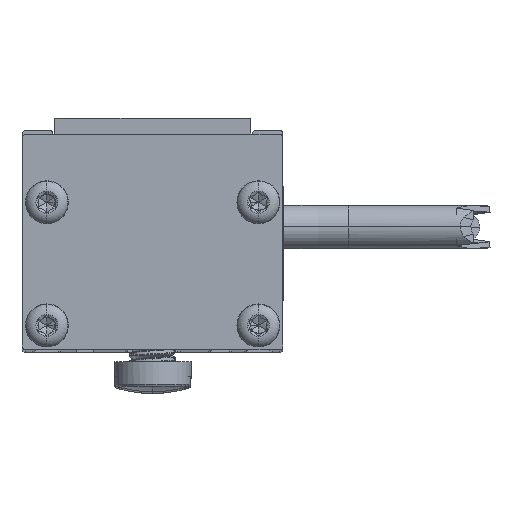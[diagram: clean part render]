
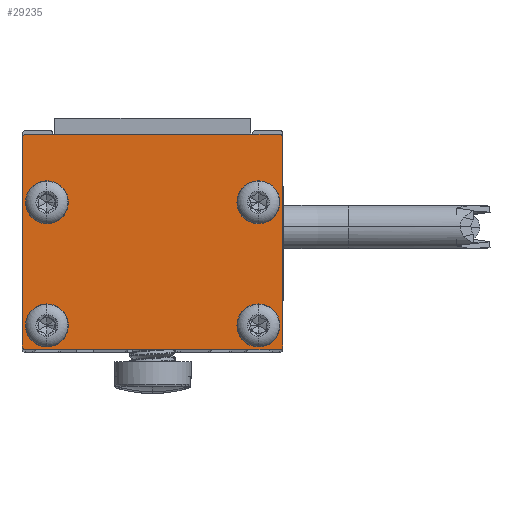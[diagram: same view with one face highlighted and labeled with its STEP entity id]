
A CAD part, top view. The second image highlights one B-rep face of the part: STEP entity #29235.
In plain terms, the highlighted planar face has unit normal (0, 0, 1).
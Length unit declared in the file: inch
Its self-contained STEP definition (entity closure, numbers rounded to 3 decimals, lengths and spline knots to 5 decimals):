
#76 = CARTESIAN_POINT ( 'NONE',  ( -0.65, 0.55, 0.03 ) ) ;
#164 = CARTESIAN_POINT ( 'NONE',  ( -0.5405, -0.425, 0.03 ) ) ;
#883 = AXIS2_PLACEMENT_3D ( 'NONE', #32474, #8230, #11011 ) ;
#925 = CIRCLE ( 'NONE', #10671, 0.0705 ) ;
#1052 = DIRECTION ( 'NONE',  ( 0., 0., 1. ) ) ;
#1828 = CARTESIAN_POINT ( 'NONE',  ( 0.65, 0.535, 0.03 ) ) ;
#1843 = AXIS2_PLACEMENT_3D ( 'NONE', #34342, #18425, #29399 ) ;
#1904 = CARTESIAN_POINT ( 'NONE',  ( 0.5405, 0.204, 0.03 ) ) ;
#1942 = CARTESIAN_POINT ( 'NONE',  ( -0.65, 0.535, 0.03 ) ) ;
#2107 = ORIENTED_EDGE ( 'NONE', *, *, #6835, .F. ) ;
#2115 = EDGE_CURVE ( 'NONE', #33021, #22830, #3619, .T. ) ;
#2238 = CIRCLE ( 'NONE', #17000, 0.015 ) ;
#2593 = DIRECTION ( 'NONE',  ( 1., 0., 0. ) ) ;
#2758 = CARTESIAN_POINT ( 'NONE',  ( -0.47, 0.204, 0.03 ) ) ;
#3425 = FACE_BOUND ( 'NONE', #18675, .T. ) ;
#3464 = CARTESIAN_POINT ( 'NONE',  ( 0.65, -0.55, 0.03 ) ) ;
#3619 = LINE ( 'NONE', #34153, #27867 ) ;
#3894 = CIRCLE ( 'NONE', #883, 0.0705 ) ;
#4306 = EDGE_CURVE ( 'NONE', #20735, #5049, #9852, .T. ) ;
#4527 = DIRECTION ( 'NONE',  ( 1., 0., 0. ) ) ;
#4608 = CARTESIAN_POINT ( 'NONE',  ( 0.665, 0.535, 0.03 ) ) ;
#4693 = ORIENTED_EDGE ( 'NONE', *, *, #12340, .F. ) ;
#4827 = DIRECTION ( 'NONE',  ( 0., 0., 1. ) ) ;
#4854 = AXIS2_PLACEMENT_3D ( 'NONE', #8296, #29655, #26654 ) ;
#5049 = VERTEX_POINT ( 'NONE', #33932 ) ;
#5125 = FACE_BOUND ( 'NONE', #22316, .T. ) ;
#5287 = DIRECTION ( 'NONE',  ( 1., 0., 0. ) ) ;
#5825 = LINE ( 'NONE', #18314, #9574 ) ;
#6415 = EDGE_CURVE ( 'NONE', #9506, #23801, #32909, .T. ) ;
#6622 = CARTESIAN_POINT ( 'NONE',  ( -0.611, 0.204, 0.03 ) ) ;
#6673 = EDGE_CURVE ( 'NONE', #20764, #22511, #30420, .T. ) ;
#6835 = EDGE_CURVE ( 'NONE', #22511, #20764, #18739, .T. ) ;
#6910 = EDGE_LOOP ( 'NONE', ( #12353, #31422, #24636, #32815, #18856, #23184, #32817, #19244 ) ) ;
#6936 = EDGE_CURVE ( 'NONE', #10852, #29149, #7017, .T. ) ;
#7017 = CIRCLE ( 'NONE', #17351, 0.0705 ) ;
#7324 = DIRECTION ( 'NONE',  ( 0., 0., 1. ) ) ;
#7361 = CARTESIAN_POINT ( 'NONE',  ( 0.665, -0.535, 0.03 ) ) ;
#7384 = CARTESIAN_POINT ( 'NONE',  ( -0.611, -0.425, 0.03 ) ) ;
#7391 = AXIS2_PLACEMENT_3D ( 'NONE', #13217, #7621, #2593 ) ;
#7585 = CARTESIAN_POINT ( 'NONE',  ( -0.65, 0.55, 0.03 ) ) ;
#7621 = DIRECTION ( 'NONE',  ( 0., 0., 1. ) ) ;
#8230 = DIRECTION ( 'NONE',  ( 0., 0., 1. ) ) ;
#8296 = CARTESIAN_POINT ( 'NONE',  ( 0.5405, 0.204, 0.03 ) ) ;
#8531 = CIRCLE ( 'NONE', #30007, 0.015 ) ;
#8813 = DIRECTION ( 'NONE',  ( 0., 0., 1. ) ) ;
#9506 = VERTEX_POINT ( 'NONE', #9586 ) ;
#9574 = VECTOR ( 'NONE', #20648, 39.37008 ) ;
#9586 = CARTESIAN_POINT ( 'NONE',  ( 0.665, 0.535, 0.03 ) ) ;
#9621 = EDGE_CURVE ( 'NONE', #10638, #33021, #2238, .T. ) ;
#9803 = ORIENTED_EDGE ( 'NONE', *, *, #32149, .F. ) ;
#9852 = CIRCLE ( 'NONE', #21094, 0.0705 ) ;
#10137 = DIRECTION ( 'NONE',  ( -1., 0., 0. ) ) ;
#10391 = DIRECTION ( 'NONE',  ( 1., 0., 0. ) ) ;
#10638 = VERTEX_POINT ( 'NONE', #17345 ) ;
#10671 = AXIS2_PLACEMENT_3D ( 'NONE', #164, #10829, #13541 ) ;
#10829 = DIRECTION ( 'NONE',  ( 0., 0., 1. ) ) ;
#10852 = VERTEX_POINT ( 'NONE', #6622 ) ;
#11011 = DIRECTION ( 'NONE',  ( -1., 0., 0. ) ) ;
#11183 = DIRECTION ( 'NONE',  ( 0., 0., 1. ) ) ;
#11398 = CARTESIAN_POINT ( 'NONE',  ( -0.5405, -0.425, 0.03 ) ) ;
#11894 = ORIENTED_EDGE ( 'NONE', *, *, #6936, .F. ) ;
#11949 = VERTEX_POINT ( 'NONE', #31182 ) ;
#12179 = DIRECTION ( 'NONE',  ( -1., 0., 0. ) ) ;
#12300 = DIRECTION ( 'NONE',  ( 0., 1., 0. ) ) ;
#12340 = EDGE_CURVE ( 'NONE', #16504, #33151, #24402, .T. ) ;
#12353 = ORIENTED_EDGE ( 'NONE', *, *, #20791, .T. ) ;
#12776 = EDGE_CURVE ( 'NONE', #5049, #20735, #3894, .T. ) ;
#13013 = CARTESIAN_POINT ( 'NONE',  ( 0.65, 0.55, 0.03 ) ) ;
#13217 = CARTESIAN_POINT ( 'NONE',  ( -0.5405, 0.204, 0.03 ) ) ;
#13297 = VERTEX_POINT ( 'NONE', #76 ) ;
#13541 = DIRECTION ( 'NONE',  ( 1., 0., 0. ) ) ;
#13876 = FACE_BOUND ( 'NONE', #18513, .T. ) ;
#14074 = PLANE ( 'NONE',  #20673 ) ;
#14649 = DIRECTION ( 'NONE',  ( 0., 0., 1. ) ) ;
#14890 = CIRCLE ( 'NONE', #1843, 0.015 ) ;
#14996 = DIRECTION ( 'NONE',  ( 0., 0., 1. ) ) ;
#15382 = DIRECTION ( 'NONE',  ( -1., 0., 0. ) ) ;
#15576 = AXIS2_PLACEMENT_3D ( 'NONE', #1904, #14996, #20235 ) ;
#15674 = EDGE_CURVE ( 'NONE', #23801, #13297, #31907, .T. ) ;
#16228 = AXIS2_PLACEMENT_3D ( 'NONE', #1828, #26127, #4527 ) ;
#16311 = AXIS2_PLACEMENT_3D ( 'NONE', #11398, #1052, #30095 ) ;
#16504 = VERTEX_POINT ( 'NONE', #7384 ) ;
#17000 = AXIS2_PLACEMENT_3D ( 'NONE', #18573, #4827, #5287 ) ;
#17345 = CARTESIAN_POINT ( 'NONE',  ( -0.665, -0.535, 0.03 ) ) ;
#17351 = AXIS2_PLACEMENT_3D ( 'NONE', #24641, #11183, #30119 ) ;
#18101 = LINE ( 'NONE', #4608, #21812 ) ;
#18314 = CARTESIAN_POINT ( 'NONE',  ( -0.665, 0.535, 0.03 ) ) ;
#18425 = DIRECTION ( 'NONE',  ( 0., 0., 1. ) ) ;
#18513 = EDGE_LOOP ( 'NONE', ( #4693, #9803 ) ) ;
#18573 = CARTESIAN_POINT ( 'NONE',  ( -0.65, -0.535, 0.03 ) ) ;
#18675 = EDGE_LOOP ( 'NONE', ( #22562, #22882 ) ) ;
#18739 = CIRCLE ( 'NONE', #4854, 0.0705 ) ;
#18856 = ORIENTED_EDGE ( 'NONE', *, *, #33963, .T. ) ;
#19128 = EDGE_CURVE ( 'NONE', #11949, #10638, #5825, .T. ) ;
#19244 = ORIENTED_EDGE ( 'NONE', *, *, #2115, .T. ) ;
#19303 = CARTESIAN_POINT ( 'NONE',  ( 0.65, -0.535, 0.03 ) ) ;
#19419 = DIRECTION ( 'NONE',  ( 1., 0., 0. ) ) ;
#20235 = DIRECTION ( 'NONE',  ( -1., 0., 0. ) ) ;
#20648 = DIRECTION ( 'NONE',  ( 0., -1., 0. ) ) ;
#20673 = AXIS2_PLACEMENT_3D ( 'NONE', #19303, #8813, #19419 ) ;
#20735 = VERTEX_POINT ( 'NONE', #32143 ) ;
#20764 = VERTEX_POINT ( 'NONE', #21321 ) ;
#20791 = EDGE_CURVE ( 'NONE', #22830, #24808, #14890, .T. ) ;
#21094 = AXIS2_PLACEMENT_3D ( 'NONE', #22670, #14649, #12179 ) ;
#21321 = CARTESIAN_POINT ( 'NONE',  ( 0.611, 0.204, 0.03 ) ) ;
#21812 = VECTOR ( 'NONE', #12300, 39.37008 ) ;
#22316 = EDGE_LOOP ( 'NONE', ( #11894, #31979 ) ) ;
#22511 = VERTEX_POINT ( 'NONE', #26603 ) ;
#22562 = ORIENTED_EDGE ( 'NONE', *, *, #12776, .F. ) ;
#22670 = CARTESIAN_POINT ( 'NONE',  ( 0.5405, -0.425, 0.03 ) ) ;
#22716 = VECTOR ( 'NONE', #10137, 39.37008 ) ;
#22830 = VERTEX_POINT ( 'NONE', #3464 ) ;
#22882 = ORIENTED_EDGE ( 'NONE', *, *, #4306, .F. ) ;
#23184 = ORIENTED_EDGE ( 'NONE', *, *, #19128, .T. ) ;
#23657 = CARTESIAN_POINT ( 'NONE',  ( -0.47, -0.425, 0.03 ) ) ;
#23801 = VERTEX_POINT ( 'NONE', #13013 ) ;
#24402 = CIRCLE ( 'NONE', #16311, 0.0705 ) ;
#24636 = ORIENTED_EDGE ( 'NONE', *, *, #6415, .T. ) ;
#24641 = CARTESIAN_POINT ( 'NONE',  ( -0.5405, 0.204, 0.03 ) ) ;
#24808 = VERTEX_POINT ( 'NONE', #7361 ) ;
#25018 = EDGE_LOOP ( 'NONE', ( #2107, #30353 ) ) ;
#25194 = FACE_OUTER_BOUND ( 'NONE', #6910, .T. ) ;
#25528 = CIRCLE ( 'NONE', #7391, 0.0705 ) ;
#25655 = EDGE_CURVE ( 'NONE', #29149, #10852, #25528, .T. ) ;
#26127 = DIRECTION ( 'NONE',  ( 0., 0., 1. ) ) ;
#26603 = CARTESIAN_POINT ( 'NONE',  ( 0.47, 0.204, 0.03 ) ) ;
#26654 = DIRECTION ( 'NONE',  ( -1., 0., 0. ) ) ;
#27867 = VECTOR ( 'NONE', #10391, 39.37008 ) ;
#29149 = VERTEX_POINT ( 'NONE', #2758 ) ;
#29235 = ADVANCED_FACE ( 'NONE', ( #3425, #13876, #25194, #5125, #32237 ), #14074, .T. ) ;
#29399 = DIRECTION ( 'NONE',  ( 1., 0., 0. ) ) ;
#29655 = DIRECTION ( 'NONE',  ( 0., 0., 1. ) ) ;
#30007 = AXIS2_PLACEMENT_3D ( 'NONE', #1942, #7324, #15382 ) ;
#30095 = DIRECTION ( 'NONE',  ( 1., 0., 0. ) ) ;
#30119 = DIRECTION ( 'NONE',  ( 1., 0., 0. ) ) ;
#30353 = ORIENTED_EDGE ( 'NONE', *, *, #6673, .F. ) ;
#30420 = CIRCLE ( 'NONE', #15576, 0.0705 ) ;
#31182 = CARTESIAN_POINT ( 'NONE',  ( -0.665, 0.535, 0.03 ) ) ;
#31422 = ORIENTED_EDGE ( 'NONE', *, *, #31461, .T. ) ;
#31461 = EDGE_CURVE ( 'NONE', #24808, #9506, #18101, .T. ) ;
#31907 = LINE ( 'NONE', #7585, #22716 ) ;
#31979 = ORIENTED_EDGE ( 'NONE', *, *, #25655, .F. ) ;
#32143 = CARTESIAN_POINT ( 'NONE',  ( 0.611, -0.425, 0.03 ) ) ;
#32149 = EDGE_CURVE ( 'NONE', #33151, #16504, #925, .T. ) ;
#32237 = FACE_BOUND ( 'NONE', #25018, .T. ) ;
#32474 = CARTESIAN_POINT ( 'NONE',  ( 0.5405, -0.425, 0.03 ) ) ;
#32815 = ORIENTED_EDGE ( 'NONE', *, *, #15674, .T. ) ;
#32817 = ORIENTED_EDGE ( 'NONE', *, *, #9621, .T. ) ;
#32820 = CARTESIAN_POINT ( 'NONE',  ( -0.65, -0.55, 0.03 ) ) ;
#32909 = CIRCLE ( 'NONE', #16228, 0.015 ) ;
#33021 = VERTEX_POINT ( 'NONE', #32820 ) ;
#33151 = VERTEX_POINT ( 'NONE', #23657 ) ;
#33932 = CARTESIAN_POINT ( 'NONE',  ( 0.47, -0.425, 0.03 ) ) ;
#33963 = EDGE_CURVE ( 'NONE', #13297, #11949, #8531, .T. ) ;
#34153 = CARTESIAN_POINT ( 'NONE',  ( -0.65, -0.55, 0.03 ) ) ;
#34342 = CARTESIAN_POINT ( 'NONE',  ( 0.65, -0.535, 0.03 ) ) ;
